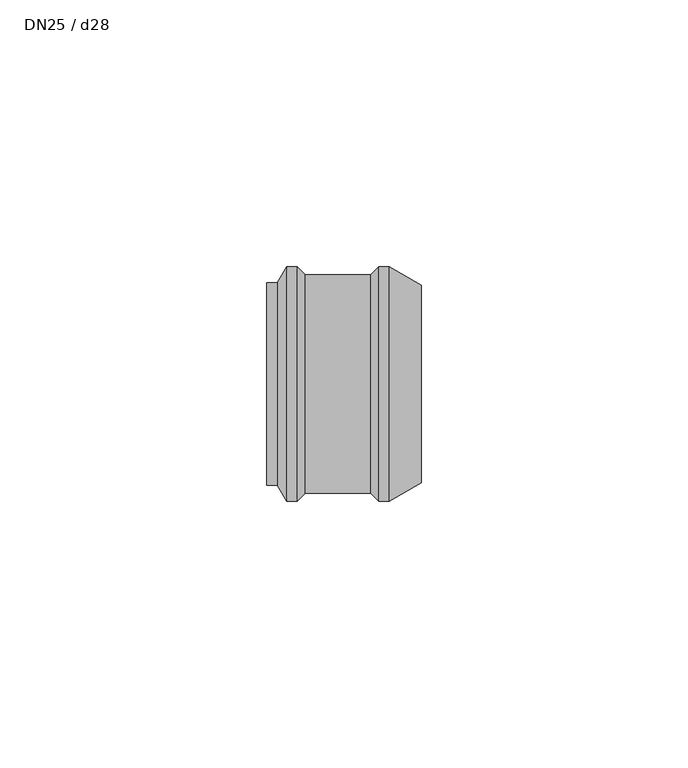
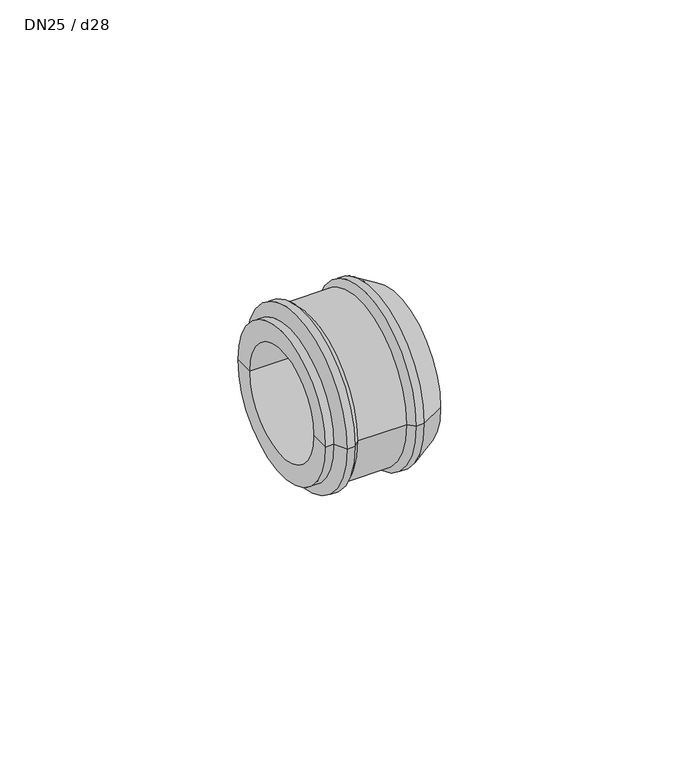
"""IFC4 building model written with IfcOpenShell, lengths in millimetres: pipe fitting geometry, NLRS_50_PIF_UN_kap op verdeler met steekaansluiting, demontabel_geb : DN25 / d28."""

from ifc_helpers import new_model, si_unit, frame, origin, place, context, project, spatial, polyline, circle_curve, source, transform, mapped, element, save
from ifc_brep_helpers import plane_surface, cylinder_surface, revolved_surface, advanced_brep


def dn25_d28_cefa68ec(model_context):
    return source(origin(), model_context, "Body", "AdvancedBrep", [
        advanced_brep(
        [(-29.0, -19.0, 0.0), (-29.0, 19.0, 0.0), (-27.0, 19.0, 0.0), (-27.0, -19.0, 0.0), (-29.0, -14.0, 0.0), (-29.0, 14.0, 0.0), (0.0, -18.5358984, 0.0), (0.0, 18.5358984, 0.0), (0.0, 0.0, 0.0), (-6.0, -22.0, 0.0), (-6.0, 22.0, 0.0), (-8.0, -22.0, 0.0), (-8.0, 22.0, 0.0), (-9.5, -20.5, 0.0), (-9.5, 20.5, 0.0), (-21.7679492, -20.5, 0.0), (-21.7679492, 20.5, 0.0), (-23.2679492, -22.0, 0.0), (-23.2679492, 22.0, 0.0), (-25.2679492, -22.0, 0.0), (-25.2679492, 22.0, 0.0), (-4.5, -14.0, 0.0), (-4.5, 14.0, 0.0), (-4.5, 0.0, 0.0)],
        [
            (0, 1, circle_curve(frame((-29.0, 0.0, 0.0), z_axis=(1.0, 0.0, 0.0), x_axis=(0.0, 1.0, 0.0)), 19.0)),
            (1, 2),
            (2, 3, circle_curve(frame((-27.0, 0.0, 0.0), z_axis=(-1.0, 0.0, 0.0), x_axis=(0.0, 1.0, 0.0)), 19.0)),
            (3, 0),
            (1, 0, circle_curve(frame((-29.0, 0.0, 0.0), z_axis=(1.0, 0.0, 0.0), x_axis=(0.0, 1.0, 0.0)), 19.0)),
            (3, 2, circle_curve(frame((-27.0, 0.0, 0.0), z_axis=(-1.0, 0.0, 0.0), x_axis=(0.0, 1.0, 0.0)), 19.0)),
            (4, 5, circle_curve(frame((-29.0, 0.0, 0.0), z_axis=(1.0, 0.0, 0.0), x_axis=(0.0, 1.0, 0.0)), 14.0)),
            (5, 1),
            (0, 4),
            (5, 4, circle_curve(frame((-29.0, 0.0, 0.0), z_axis=(1.0, 0.0, 0.0), x_axis=(0.0, 1.0, 0.0)), 14.0)),
            (6, 7, circle_curve(frame((0.0, 0.0, 0.0), z_axis=(1.0, 0.0, 0.0), x_axis=(0.0, 1.0, 0.0)), 18.5358984)),
            (7, 8),
            (8, 6),
            (7, 6, circle_curve(frame((0.0, 0.0, 0.0), z_axis=(1.0, 0.0, 0.0), x_axis=(0.0, 1.0, 0.0)), 18.5358984)),
            (9, 10, circle_curve(frame((-6.0, 0.0, 0.0), z_axis=(1.0, 0.0, 0.0), x_axis=(0.0, 1.0, 0.0)), 22.0)),
            (10, 7),
            (6, 9),
            (10, 9, circle_curve(frame((-6.0, 0.0, 0.0), z_axis=(1.0, 0.0, 0.0), x_axis=(0.0, 1.0, 0.0)), 22.0)),
            (11, 12, circle_curve(frame((-8.0, 0.0, 0.0), z_axis=(1.0, 0.0, 0.0), x_axis=(0.0, 1.0, 0.0)), 22.0)),
            (12, 10),
            (9, 11),
            (12, 11, circle_curve(frame((-8.0, 0.0, 0.0), z_axis=(1.0, 0.0, 0.0), x_axis=(0.0, 1.0, 0.0)), 22.0)),
            (13, 14, circle_curve(frame((-9.5, 0.0, 0.0), z_axis=(1.0, 0.0, 0.0), x_axis=(0.0, 1.0, 0.0)), 20.5)),
            (14, 12),
            (11, 13),
            (14, 13, circle_curve(frame((-9.5, 0.0, 0.0), z_axis=(1.0, 0.0, 0.0), x_axis=(0.0, 1.0, 0.0)), 20.5)),
            (15, 16, circle_curve(frame((-21.7679492, 0.0, 0.0), z_axis=(1.0, 0.0, 0.0), x_axis=(0.0, 1.0, 0.0)), 20.5)),
            (16, 14),
            (13, 15),
            (16, 15, circle_curve(frame((-21.7679492, 0.0, 0.0), z_axis=(1.0, 0.0, 0.0), x_axis=(0.0, 1.0, 0.0)), 20.5)),
            (17, 18, circle_curve(frame((-23.2679492, 0.0, 0.0), z_axis=(1.0, 0.0, 0.0), x_axis=(0.0, 1.0, 0.0)), 22.0)),
            (18, 16),
            (15, 17),
            (18, 17, circle_curve(frame((-23.2679492, 0.0, 0.0), z_axis=(1.0, 0.0, 0.0), x_axis=(0.0, 1.0, 0.0)), 22.0)),
            (19, 20, circle_curve(frame((-25.2679492, 0.0, 0.0), z_axis=(1.0, 0.0, 0.0), x_axis=(0.0, 1.0, 0.0)), 22.0)),
            (20, 18),
            (17, 19),
            (20, 19, circle_curve(frame((-25.2679492, 0.0, 0.0), z_axis=(1.0, 0.0, 0.0), x_axis=(0.0, 1.0, 0.0)), 22.0)),
            (2, 20),
            (19, 3),
            (21, 22, circle_curve(frame((-4.5, 0.0, 0.0), z_axis=(1.0, 0.0, 0.0), x_axis=(0.0, 1.0, 0.0)), 14.0)),
            (22, 5),
            (4, 21),
            (22, 21, circle_curve(frame((-4.5, 0.0, 0.0), z_axis=(1.0, 0.0, 0.0), x_axis=(0.0, 1.0, 0.0)), 14.0)),
            (23, 22),
            (21, 23),
        ],
        [
            cylinder_surface(frame((6.6215561, 0.0, 0.0), z_axis=(-1.0, 0.0, 0.0), x_axis=(0.0, 1.0, 0.0)), 19.0),
            plane_surface(frame((-29.0, 0.0, 0.0), z_axis=(-1.0, 0.0, 0.0), x_axis=(0.0, 1.0, 0.0))),
            plane_surface(frame((0.0, 0.0, 0.0), z_axis=(1.0, 0.0, 0.0), x_axis=(0.0, 1.0, 0.0))),
            revolved_surface(polyline([(0.0, 18.5358984, 0.0), (-6.0, 22.0, 0.0)]), (6.6215561, 0.0, 0.0), (-1.0, 0.0, 0.0)),
            cylinder_surface(frame((6.6215561, 0.0, 0.0), z_axis=(-1.0, 0.0, 0.0), x_axis=(0.0, 1.0, 0.0)), 22.0),
            revolved_surface(polyline([(-8.0, 22.0, 0.0), (-9.5, 20.5, 0.0)]), (6.6215561, 0.0, 0.0), (-1.0, 0.0, 0.0)),
            cylinder_surface(frame((6.6215561, 0.0, 0.0), z_axis=(-1.0, 0.0, 0.0), x_axis=(0.0, 1.0, 0.0)), 20.5),
            revolved_surface(polyline([(-21.7679492, 20.5, 0.0), (-23.2679492, 22.0, 0.0)]), (6.6215561, 0.0, 0.0), (-1.0, 0.0, 0.0)),
            revolved_surface(polyline([(-25.2679492, 22.0, 0.0), (-27.0, 19.0, 0.0)]), (6.6215561, 0.0, 0.0), (-1.0, 0.0, 0.0)),
            revolved_surface(polyline([(-29.0, 14.0, 0.0), (-4.499999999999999, 14.0, 0.0)]), (6.6215561, 0.0, 0.0), (-1.0, 0.0, 0.0)),
            plane_surface(frame((-4.5, 0.0, 0.0), z_axis=(-1.0, 0.0, 0.0), x_axis=(0.0, 1.0, 0.0))),
        ],
        [
            (0, [[1, 2, 3, 4]]),
            (0, [[5, -4, 6, -2]]),
            (1, [[7, 8, -1, 9]]),
            (1, [[10, -9, -5, -8]]),
            (2, [[11, 12, 13]]),
            (2, [[14, -13, -12]]),
            (3, [[15, 16, -11, 17]]),
            (3, [[18, -17, -14, -16]]),
            (4, [[19, 20, -15, 21]]),
            (4, [[22, -21, -18, -20]]),
            (5, [[23, 24, -19, 25]]),
            (5, [[26, -25, -22, -24]]),
            (6, [[27, 28, -23, 29]]),
            (6, [[30, -29, -26, -28]]),
            (7, [[31, 32, -27, 33]]),
            (7, [[34, -33, -30, -32]]),
            (4, [[35, 36, -31, 37]]),
            (4, [[38, -37, -34, -36]]),
            (8, [[-3, 39, -35, 40]]),
            (8, [[-6, -40, -38, -39]]),
            (9, [[41, 42, -7, 43]]),
            (9, [[44, -43, -10, -42]]),
            (10, [[45, -41, 46]]),
            (10, [[-46, -44, -45]]),
        ],
    ),
    ])


if __name__ == "__main__":
    model = new_model("IFC4")
    model_context = context("Model", 3, world=origin())
    ifc_project = project(units=[si_unit("LENGTHUNIT", "METRE", prefix="MILLI")], contexts=[model_context])
    site = spatial("IfcSite", under=ifc_project)
    building = spatial("IfcBuilding", under=site)
    placement = place(None, origin())
    dn25_d28_shape = dn25_d28_cefa68ec(model_context)
    element("IfcPipeFitting", 1, ObjectType="NLRS_50_PIF_UN_kap op verdeler met steekaansluiting, demontabel_geb : DN25 / d28", at=placement, inside=building, context=model_context, shape_type="MappedRepresentation", body=[
        mapped(dn25_d28_shape, transform((0.0, 0.0, 0.0), x_axis=(1.0, 0.0, 0.0), y_axis=(0.0, 1.0, 0.0), z_axis=(0.0, 0.0, 1.0))),
    ])
    save(model, "model.ifc")
